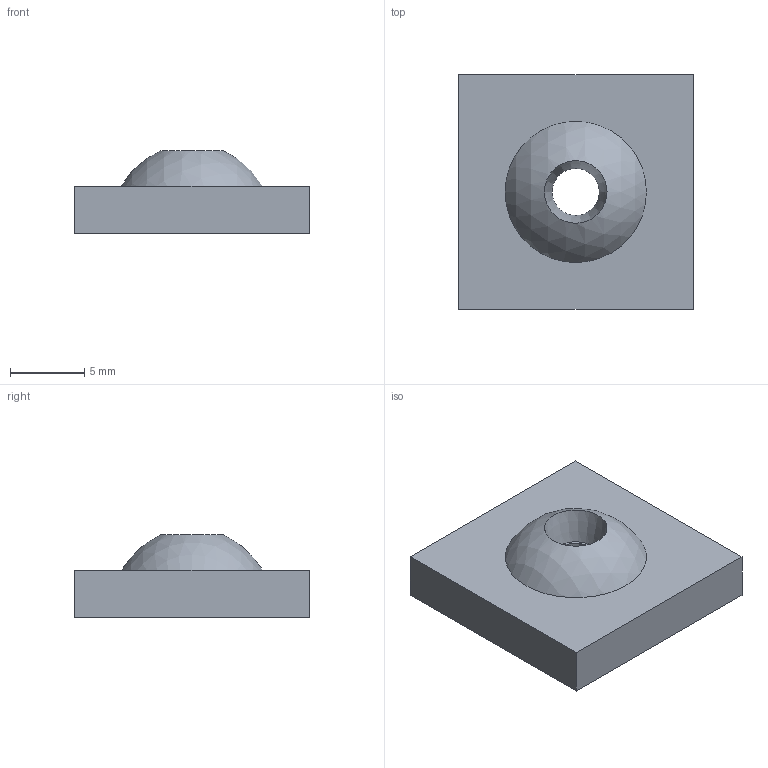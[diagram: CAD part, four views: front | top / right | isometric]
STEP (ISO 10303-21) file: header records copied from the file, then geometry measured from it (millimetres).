
FILE_DESCRIPTION((''),'1');
FILE_NAME('C:/Users/ericfrey/Desktop/DIMPLE.stp', '2015-09-17T20:05:06',(''), (''), 'KCM Version 1.1.1442.0', 'Kubotek KeyCreator', '');
FILE_SCHEMA(('AUTOMOTIVE_DESIGN'));
Length unit declared in the file: inch
Bounding box: 15.84 x 15.85 x 5.56 mm (x, y, z)
Volume: 801.9 mm3; surface area: 777.1 mm2
Topology: 1 solids, 1 shells, 13 faces, 25 edges, 17 vertices
Faces by surface type: plane 7, sphere 3, cylinder 2, cone 1
Full cylindrical faces by diameter (mm): 3.175 x1, 6.35 x1
Entity records: 360 total; most frequent: DIRECTION 61, CARTESIAN_POINT 55, ORIENTED_EDGE 48, EDGE_CURVE 24, AXIS2_PLACEMENT_3D 23, EDGE_LOOP 19, VERTEX_POINT 17, VECTOR 15
